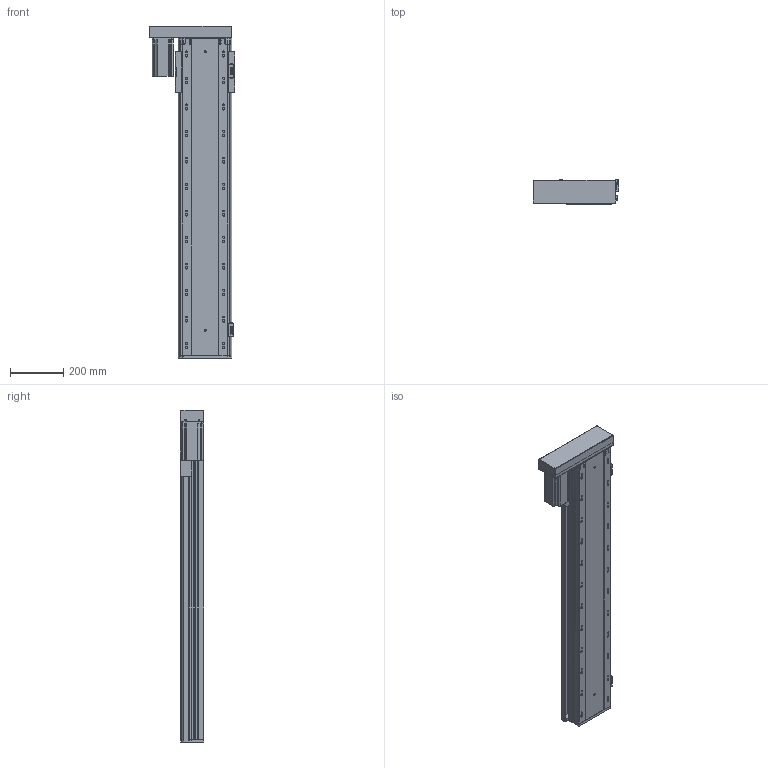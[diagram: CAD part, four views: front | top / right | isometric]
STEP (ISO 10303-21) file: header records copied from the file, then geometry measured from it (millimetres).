
FILE_DESCRIPTION (( 'STEP AP203' ), '1' );
FILE_NAME ('RY170FB-L2020-300-LK.SLDASM_950.step', '2021-02-23T03:02:56', ( '盈信电脑' ), ( '东莞市道滘镇水果街19号' ), 'SwSTEP 2.0', 'SolidWorks 2012', '' );
FILE_SCHEMA (( 'CONFIG_CONTROL_DESIGN' ));
Length unit declared in the file: millimetre
Products named in the file (16): RY170FB-酘衵殏萇儂欶750W; RY170FB-L2020-300-LK.SLDASM_950; RY140FB-674嫖萇覜茼え; RY140-674嫖萇耀輸; RY170FB-左右折电机安装板750W; RY170FB-300蛌殏奻裔-LK_950; RY140直线电机感应器674光电安装座; 覜茼ん674; RY170FB-綴裔啣; RY170FB-铝滑块(25丝杆）; 怢湛750W萇儂ㄗ80遺ㄘ; RY170FB-转折电机端支撑座(7002); 滅袉蝶18-28; RY170FB-300蛌殏倰第菁釱-LK_950; 滅袉蝶18-10
Assembly tree (18 placements, depth 3):
  RY170FB-L2020-300-LK.SLDASM_950
    RY170FB-300蛌殏倰第菁釱-LK_950
    滅袉蝶18-28
    滅袉蝶18-10
    RY170FB-转折电机端支撑座(7002)
    怢湛750W萇儂ㄗ80遺ㄘ
    RY170FB-铝滑块(25丝杆）
    RY170FB-綴裔啣
    RY170FB-300蛌殏奻裔-LK_950
    RY140-674嫖萇耀輸
      覜茼ん674  x2
      RY140直线电机感应器674光电安装座
    RY140-674嫖萇耀輸
      覜茼ん674
      RY140直线电机感应器674光电安装座
    RY140FB-674嫖萇覜茼え
    RY170FB-左右折电机安装板750W
    RY170FB-酘衵殏萇儂欶750W
Bounding box: 323.95 x 90.5 x 1252.7 mm (x, y, z)
Volume: 7672753.9 mm3; surface area: 2245202.8 mm2
Topology: 16 solids, 16 shells, 1741 faces, 5058 edges, 3216 vertices
Faces by surface type: cylinder 961, plane 600, cone 172, bspline 8
Entity records: 57559 total; most frequent: CARTESIAN_POINT 14731, ORIENTED_EDGE 8824, DIRECTION 8328, EDGE_CURVE 4412, AXIS2_PLACEMENT_3D 3055, VERTEX_POINT 2896, LINE 2218, VECTOR 2218
